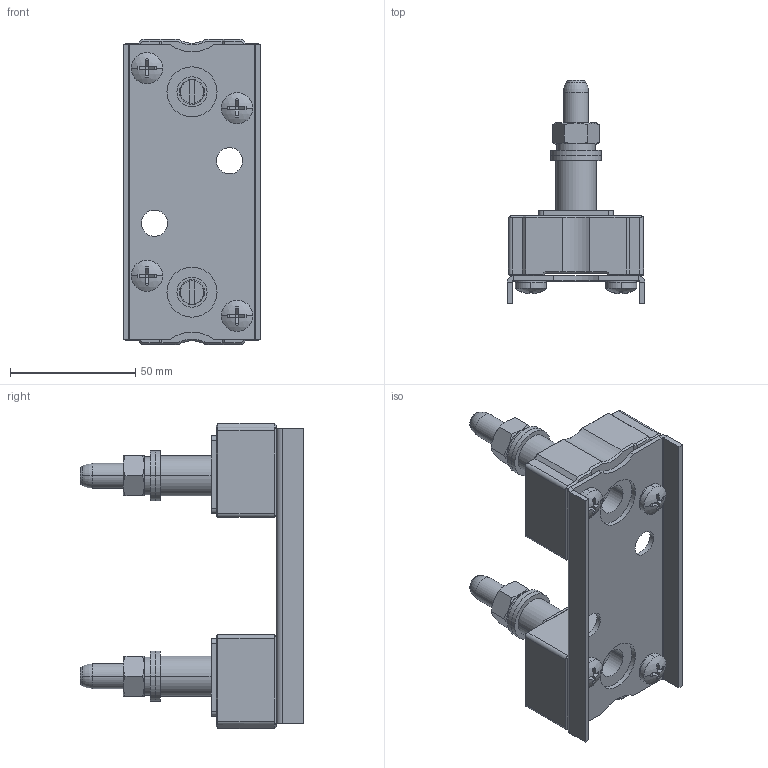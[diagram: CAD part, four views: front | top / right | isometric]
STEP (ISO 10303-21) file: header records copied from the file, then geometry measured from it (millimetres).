
FILE_DESCRIPTION (( 'STEP AP214' ), '1' );
FILE_NAME ('SP50U06.step', '2011-10-27T07:28:41', ( 'Radek Veselý' ), ( 'Siemens and Partners' ), 'SwSTEP 2.0', 'SolidWorks 2006303', '' );
FILE_SCHEMA (( 'AUTOMOTIVE_DESIGN' ));
Length unit declared in the file: millimetre
Products named in the file (1): SP50U06
Bounding box: 55 x 89.2 x 122 mm (x, y, z)
Volume: 128124.4 mm3; surface area: 55121.7 mm2
Topology: 25 solids, 25 shells, 636 faces, 1440 edges, 888 vertices
Faces by surface type: plane 318, cylinder 198, cone 84, torus 28, sphere 8
Entity records: 25243 total; most frequent: CARTESIAN_POINT 3485, DIRECTION 3182, ORIENTED_EDGE 2864, EDGE_CURVE 1432, AXIS2_PLACEMENT_3D 1233, VERTEX_POINT 888, EDGE_LOOP 722, VECTOR 716
